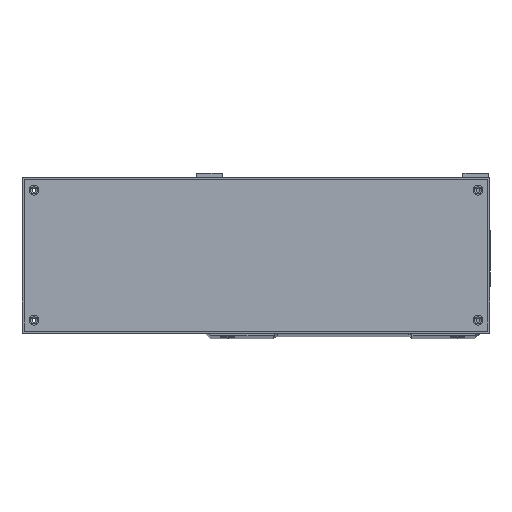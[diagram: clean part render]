
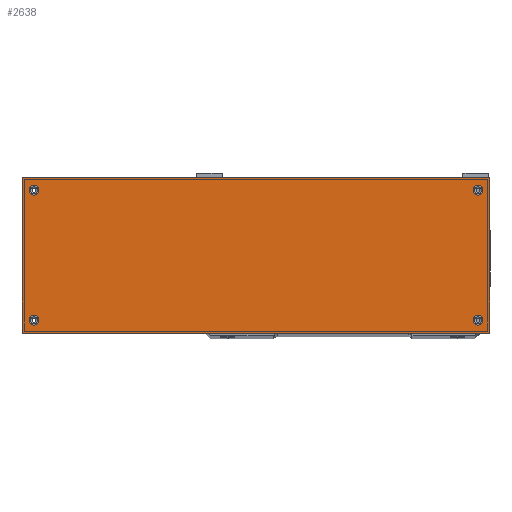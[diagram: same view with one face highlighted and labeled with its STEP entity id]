
A CAD part, top view. The second image highlights one B-rep face of the part: STEP entity #2638.
In plain terms, the highlighted planar face has unit normal (0, 0, 1).
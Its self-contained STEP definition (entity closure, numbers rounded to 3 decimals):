
#894=FACE_BOUND('',#4573,.T.);
#895=FACE_BOUND('',#4574,.T.);
#896=FACE_BOUND('',#4575,.T.);
#897=FACE_BOUND('',#4576,.T.);
#898=FACE_BOUND('',#4577,.T.);
#1948=CIRCLE('',#16251,2.25);
#1950=CIRCLE('',#16254,2.25);
#1952=CIRCLE('',#16257,2.25);
#1954=CIRCLE('',#16260,2.25);
#2638=ADVANCED_FACE('',(#894,#895,#896,#897,#898),#3385,.F.);
#3385=PLANE('',#16266);
#4573=EDGE_LOOP('',(#7027));
#4574=EDGE_LOOP('',(#7028));
#4575=EDGE_LOOP('',(#7029));
#4576=EDGE_LOOP('',(#7030));
#4577=EDGE_LOOP('',(#7031,#7032,#7033,#7034));
#7027=ORIENTED_EDGE('',*,*,#12320,.F.);
#7028=ORIENTED_EDGE('',*,*,#12322,.F.);
#7029=ORIENTED_EDGE('',*,*,#12324,.F.);
#7030=ORIENTED_EDGE('',*,*,#12326,.F.);
#7031=ORIENTED_EDGE('',*,*,#12079,.F.);
#7032=ORIENTED_EDGE('',*,*,#12336,.F.);
#7033=ORIENTED_EDGE('',*,*,#12327,.F.);
#7034=ORIENTED_EDGE('',*,*,#12106,.F.);
#10378=VERTEX_POINT('',#24039);
#10379=VERTEX_POINT('',#24041);
#10394=VERTEX_POINT('',#24086);
#10540=VERTEX_POINT('',#24973);
#10542=VERTEX_POINT('',#24978);
#10544=VERTEX_POINT('',#24983);
#10546=VERTEX_POINT('',#24988);
#10547=VERTEX_POINT('',#24991);
#12079=EDGE_CURVE('',#10378,#10379,#13847,.T.);
#12106=EDGE_CURVE('',#10379,#10394,#13872,.T.);
#12320=EDGE_CURVE('',#10540,#10540,#1948,.T.);
#12322=EDGE_CURVE('',#10542,#10542,#1950,.T.);
#12324=EDGE_CURVE('',#10544,#10544,#1952,.T.);
#12326=EDGE_CURVE('',#10546,#10546,#1954,.T.);
#12327=EDGE_CURVE('',#10394,#10547,#13981,.T.);
#12336=EDGE_CURVE('',#10547,#10378,#13988,.T.);
#13847=LINE('',#24040,#14951);
#13872=LINE('',#24085,#14976);
#13981=LINE('',#24990,#15085);
#13988=LINE('',#25007,#15092);
#14951=VECTOR('',#18662,1.);
#14976=VECTOR('',#18697,1.);
#15085=VECTOR('',#19148,1.);
#15092=VECTOR('',#19161,1.);
#16251=AXIS2_PLACEMENT_3D('',#24972,#19126,#19127);
#16254=AXIS2_PLACEMENT_3D('',#24977,#19132,#19133);
#16257=AXIS2_PLACEMENT_3D('',#24982,#19138,#19139);
#16260=AXIS2_PLACEMENT_3D('',#24987,#19144,#19145);
#16266=AXIS2_PLACEMENT_3D('',#25014,#19167,#19168);
#18662=DIRECTION('',(0.,-1.,0.));
#18697=DIRECTION('',(-1.,0.,0.));
#19126=DIRECTION('',(0.,0.,1.));
#19127=DIRECTION('',(-1.,0.,0.));
#19132=DIRECTION('',(0.,0.,1.));
#19133=DIRECTION('',(1.,0.,0.));
#19138=DIRECTION('',(0.,0.,1.));
#19139=DIRECTION('',(-1.,0.,0.));
#19144=DIRECTION('',(0.,0.,1.));
#19145=DIRECTION('',(1.,0.,0.));
#19148=DIRECTION('',(0.,1.,0.));
#19161=DIRECTION('',(1.,0.,0.));
#19167=DIRECTION('',(0.,0.,-1.));
#19168=DIRECTION('',(1.,0.,0.));
#24039=CARTESIAN_POINT('',(68.,72.,193.));
#24040=CARTESIAN_POINT('',(68.,72.,193.));
#24041=CARTESIAN_POINT('',(68.,0.,193.));
#24085=CARTESIAN_POINT('',(68.,0.,193.));
#24086=CARTESIAN_POINT('',(-148.,0.,193.));
#24972=CARTESIAN_POINT('',(-142.5,6.,193.));
#24973=CARTESIAN_POINT('',(-144.75,6.,193.));
#24977=CARTESIAN_POINT('',(62.5,6.,193.));
#24978=CARTESIAN_POINT('',(64.75,6.,193.));
#24982=CARTESIAN_POINT('',(62.5,66.,193.));
#24983=CARTESIAN_POINT('',(60.25,66.,193.));
#24987=CARTESIAN_POINT('',(-142.5,66.,193.));
#24988=CARTESIAN_POINT('',(-140.25,66.,193.));
#24990=CARTESIAN_POINT('',(-148.,72.,193.));
#24991=CARTESIAN_POINT('',(-148.,72.,193.));
#25007=CARTESIAN_POINT('',(68.,72.,193.));
#25014=CARTESIAN_POINT('',(-40.,36.,193.));
